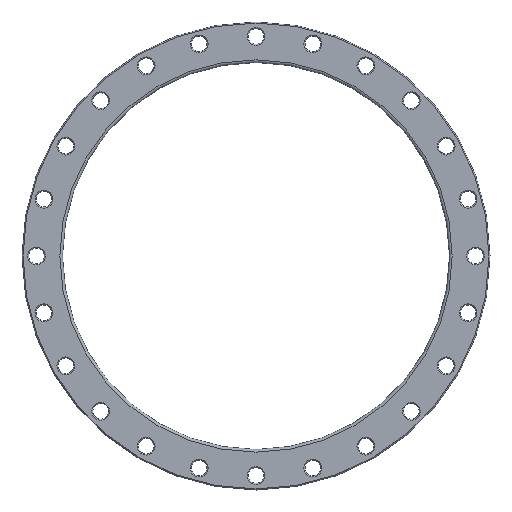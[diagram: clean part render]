
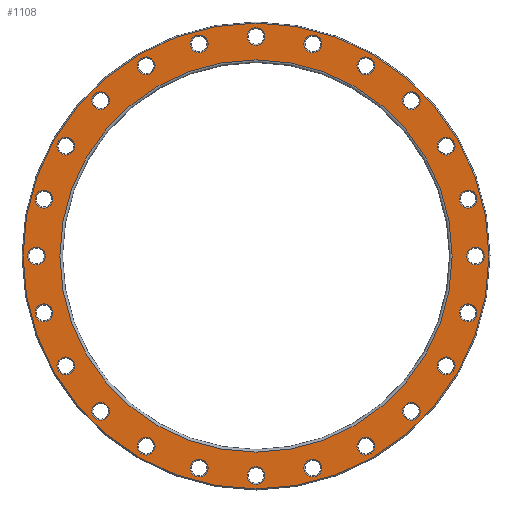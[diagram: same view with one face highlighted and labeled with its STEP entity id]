
A CAD part, front view. The second image highlights one B-rep face of the part: STEP entity #1108.
In plain terms, the highlighted planar face has unit normal (0, -1, 0).
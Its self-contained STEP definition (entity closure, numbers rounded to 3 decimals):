
#23=PLANE('',#1300);
#242=ORIENTED_EDGE('',*,*,#381,.T.);
#243=ORIENTED_EDGE('',*,*,#382,.T.);
#244=ORIENTED_EDGE('',*,*,#284,.T.);
#245=ORIENTED_EDGE('',*,*,#288,.T.);
#246=ORIENTED_EDGE('',*,*,#292,.T.);
#247=ORIENTED_EDGE('',*,*,#296,.T.);
#248=ORIENTED_EDGE('',*,*,#300,.T.);
#249=ORIENTED_EDGE('',*,*,#304,.T.);
#250=ORIENTED_EDGE('',*,*,#308,.T.);
#251=ORIENTED_EDGE('',*,*,#312,.T.);
#252=ORIENTED_EDGE('',*,*,#316,.T.);
#253=ORIENTED_EDGE('',*,*,#320,.T.);
#254=ORIENTED_EDGE('',*,*,#324,.T.);
#255=ORIENTED_EDGE('',*,*,#328,.T.);
#256=ORIENTED_EDGE('',*,*,#332,.T.);
#257=ORIENTED_EDGE('',*,*,#336,.T.);
#258=ORIENTED_EDGE('',*,*,#340,.T.);
#259=ORIENTED_EDGE('',*,*,#344,.T.);
#260=ORIENTED_EDGE('',*,*,#348,.T.);
#261=ORIENTED_EDGE('',*,*,#352,.T.);
#262=ORIENTED_EDGE('',*,*,#356,.T.);
#263=ORIENTED_EDGE('',*,*,#360,.T.);
#264=ORIENTED_EDGE('',*,*,#364,.T.);
#265=ORIENTED_EDGE('',*,*,#368,.T.);
#266=ORIENTED_EDGE('',*,*,#372,.T.);
#267=ORIENTED_EDGE('',*,*,#383,.T.);
#284=EDGE_CURVE('',#388,#388,#492,.T.);
#288=EDGE_CURVE('',#392,#392,#496,.T.);
#292=EDGE_CURVE('',#396,#396,#500,.T.);
#296=EDGE_CURVE('',#400,#400,#504,.T.);
#300=EDGE_CURVE('',#404,#404,#508,.T.);
#304=EDGE_CURVE('',#408,#408,#512,.T.);
#308=EDGE_CURVE('',#412,#412,#516,.T.);
#312=EDGE_CURVE('',#416,#416,#520,.T.);
#316=EDGE_CURVE('',#420,#420,#524,.T.);
#320=EDGE_CURVE('',#424,#424,#528,.T.);
#324=EDGE_CURVE('',#428,#428,#532,.T.);
#328=EDGE_CURVE('',#432,#432,#536,.T.);
#332=EDGE_CURVE('',#436,#436,#540,.T.);
#336=EDGE_CURVE('',#440,#440,#544,.T.);
#340=EDGE_CURVE('',#444,#444,#548,.T.);
#344=EDGE_CURVE('',#448,#448,#552,.T.);
#348=EDGE_CURVE('',#452,#452,#556,.T.);
#352=EDGE_CURVE('',#456,#456,#560,.T.);
#356=EDGE_CURVE('',#460,#460,#564,.T.);
#360=EDGE_CURVE('',#464,#464,#568,.T.);
#364=EDGE_CURVE('',#468,#468,#572,.T.);
#368=EDGE_CURVE('',#472,#472,#576,.T.);
#372=EDGE_CURVE('',#476,#476,#580,.T.);
#381=EDGE_CURVE('',#485,#485,#589,.F.);
#382=EDGE_CURVE('',#486,#486,#590,.T.);
#383=EDGE_CURVE('',#487,#487,#591,.T.);
#388=VERTEX_POINT('',#1691);
#392=VERTEX_POINT('',#1702);
#396=VERTEX_POINT('',#1713);
#400=VERTEX_POINT('',#1724);
#404=VERTEX_POINT('',#1735);
#408=VERTEX_POINT('',#1746);
#412=VERTEX_POINT('',#1757);
#416=VERTEX_POINT('',#1768);
#420=VERTEX_POINT('',#1779);
#424=VERTEX_POINT('',#1790);
#428=VERTEX_POINT('',#1801);
#432=VERTEX_POINT('',#1812);
#436=VERTEX_POINT('',#1823);
#440=VERTEX_POINT('',#1834);
#444=VERTEX_POINT('',#1845);
#448=VERTEX_POINT('',#1856);
#452=VERTEX_POINT('',#1867);
#456=VERTEX_POINT('',#1878);
#460=VERTEX_POINT('',#1889);
#464=VERTEX_POINT('',#1900);
#468=VERTEX_POINT('',#1911);
#472=VERTEX_POINT('',#1922);
#476=VERTEX_POINT('',#1933);
#485=VERTEX_POINT('',#1956);
#486=VERTEX_POINT('',#1958);
#487=VERTEX_POINT('',#1960);
#492=CIRCLE('',#1133,17.);
#496=CIRCLE('',#1140,17.);
#500=CIRCLE('',#1147,17.);
#504=CIRCLE('',#1154,17.);
#508=CIRCLE('',#1161,17.);
#512=CIRCLE('',#1168,17.);
#516=CIRCLE('',#1175,17.);
#520=CIRCLE('',#1182,17.);
#524=CIRCLE('',#1189,17.);
#528=CIRCLE('',#1196,17.);
#532=CIRCLE('',#1203,17.);
#536=CIRCLE('',#1210,17.);
#540=CIRCLE('',#1217,17.);
#544=CIRCLE('',#1224,17.);
#548=CIRCLE('',#1231,17.);
#552=CIRCLE('',#1238,17.);
#556=CIRCLE('',#1245,17.);
#560=CIRCLE('',#1252,17.);
#564=CIRCLE('',#1259,17.);
#568=CIRCLE('',#1266,17.);
#572=CIRCLE('',#1273,17.);
#576=CIRCLE('',#1280,17.);
#580=CIRCLE('',#1287,17.);
#589=CIRCLE('',#1301,445.5);
#590=CIRCLE('',#1302,375.);
#591=CIRCLE('',#1303,17.);
#762=EDGE_LOOP('',(#242));
#763=EDGE_LOOP('',(#243));
#764=EDGE_LOOP('',(#244));
#765=EDGE_LOOP('',(#245));
#766=EDGE_LOOP('',(#246));
#767=EDGE_LOOP('',(#247));
#768=EDGE_LOOP('',(#248));
#769=EDGE_LOOP('',(#249));
#770=EDGE_LOOP('',(#250));
#771=EDGE_LOOP('',(#251));
#772=EDGE_LOOP('',(#252));
#773=EDGE_LOOP('',(#253));
#774=EDGE_LOOP('',(#254));
#775=EDGE_LOOP('',(#255));
#776=EDGE_LOOP('',(#256));
#777=EDGE_LOOP('',(#257));
#778=EDGE_LOOP('',(#258));
#779=EDGE_LOOP('',(#259));
#780=EDGE_LOOP('',(#260));
#781=EDGE_LOOP('',(#261));
#782=EDGE_LOOP('',(#262));
#783=EDGE_LOOP('',(#263));
#784=EDGE_LOOP('',(#264));
#785=EDGE_LOOP('',(#265));
#786=EDGE_LOOP('',(#266));
#787=EDGE_LOOP('',(#267));
#970=FACE_BOUND('',#762,.T.);
#971=FACE_BOUND('',#763,.T.);
#972=FACE_BOUND('',#764,.T.);
#973=FACE_BOUND('',#765,.T.);
#974=FACE_BOUND('',#766,.T.);
#975=FACE_BOUND('',#767,.T.);
#976=FACE_BOUND('',#768,.T.);
#977=FACE_BOUND('',#769,.T.);
#978=FACE_BOUND('',#770,.T.);
#979=FACE_BOUND('',#771,.T.);
#980=FACE_BOUND('',#772,.T.);
#981=FACE_BOUND('',#773,.T.);
#982=FACE_BOUND('',#774,.T.);
#983=FACE_BOUND('',#775,.T.);
#984=FACE_BOUND('',#776,.T.);
#985=FACE_BOUND('',#777,.T.);
#986=FACE_BOUND('',#778,.T.);
#987=FACE_BOUND('',#779,.T.);
#988=FACE_BOUND('',#780,.T.);
#989=FACE_BOUND('',#781,.T.);
#990=FACE_BOUND('',#782,.T.);
#991=FACE_BOUND('',#783,.T.);
#992=FACE_BOUND('',#784,.T.);
#993=FACE_BOUND('',#785,.T.);
#994=FACE_BOUND('',#786,.T.);
#995=FACE_BOUND('',#787,.T.);
#1108=ADVANCED_FACE('',(#970,#971,#972,#973,#974,#975,#976,#977,#978,#979,
#980,#981,#982,#983,#984,#985,#986,#987,#988,#989,#990,#991,#992,#993,#994,
#995),#23,.F.);
#1133=AXIS2_PLACEMENT_3D('',#1690,#1323,#1324);
#1140=AXIS2_PLACEMENT_3D('',#1701,#1337,#1338);
#1147=AXIS2_PLACEMENT_3D('',#1712,#1351,#1352);
#1154=AXIS2_PLACEMENT_3D('',#1723,#1365,#1366);
#1161=AXIS2_PLACEMENT_3D('',#1734,#1379,#1380);
#1168=AXIS2_PLACEMENT_3D('',#1745,#1393,#1394);
#1175=AXIS2_PLACEMENT_3D('',#1756,#1407,#1408);
#1182=AXIS2_PLACEMENT_3D('',#1767,#1421,#1422);
#1189=AXIS2_PLACEMENT_3D('',#1778,#1435,#1436);
#1196=AXIS2_PLACEMENT_3D('',#1789,#1449,#1450);
#1203=AXIS2_PLACEMENT_3D('',#1800,#1463,#1464);
#1210=AXIS2_PLACEMENT_3D('',#1811,#1477,#1478);
#1217=AXIS2_PLACEMENT_3D('',#1822,#1491,#1492);
#1224=AXIS2_PLACEMENT_3D('',#1833,#1505,#1506);
#1231=AXIS2_PLACEMENT_3D('',#1844,#1519,#1520);
#1238=AXIS2_PLACEMENT_3D('',#1855,#1533,#1534);
#1245=AXIS2_PLACEMENT_3D('',#1866,#1547,#1548);
#1252=AXIS2_PLACEMENT_3D('',#1877,#1561,#1562);
#1259=AXIS2_PLACEMENT_3D('',#1888,#1575,#1576);
#1266=AXIS2_PLACEMENT_3D('',#1899,#1589,#1590);
#1273=AXIS2_PLACEMENT_3D('',#1910,#1603,#1604);
#1280=AXIS2_PLACEMENT_3D('',#1921,#1617,#1618);
#1287=AXIS2_PLACEMENT_3D('',#1932,#1631,#1632);
#1300=AXIS2_PLACEMENT_3D('',#1954,#1657,#1658);
#1301=AXIS2_PLACEMENT_3D('',#1955,#1659,#1660);
#1302=AXIS2_PLACEMENT_3D('',#1957,#1661,#1662);
#1303=AXIS2_PLACEMENT_3D('',#1959,#1663,#1664);
#1323=DIRECTION('',(0.,1.,0.));
#1324=DIRECTION('',(0.966,0.,0.259));
#1337=DIRECTION('',(0.,1.,0.));
#1338=DIRECTION('',(0.866,0.,0.5));
#1351=DIRECTION('',(0.,1.,0.));
#1352=DIRECTION('',(0.707,0.,0.707));
#1365=DIRECTION('',(0.,1.,0.));
#1366=DIRECTION('',(0.5,0.,0.866));
#1379=DIRECTION('',(0.,1.,0.));
#1380=DIRECTION('',(0.259,0.,0.966));
#1393=DIRECTION('',(0.,1.,0.));
#1394=DIRECTION('',(0.,0.,1.));
#1407=DIRECTION('',(0.,1.,0.));
#1408=DIRECTION('',(-0.259,0.,0.966));
#1421=DIRECTION('',(0.,1.,0.));
#1422=DIRECTION('',(-0.5,0.,0.866));
#1435=DIRECTION('',(0.,1.,0.));
#1436=DIRECTION('',(-0.707,0.,0.707));
#1449=DIRECTION('',(0.,1.,0.));
#1450=DIRECTION('',(-0.866,0.,0.5));
#1463=DIRECTION('',(0.,1.,0.));
#1464=DIRECTION('',(-0.966,0.,0.259));
#1477=DIRECTION('',(0.,1.,0.));
#1478=DIRECTION('',(-1.,0.,0.));
#1491=DIRECTION('',(0.,1.,0.));
#1492=DIRECTION('',(-0.966,0.,-0.259));
#1505=DIRECTION('',(0.,1.,0.));
#1506=DIRECTION('',(-0.866,0.,-0.5));
#1519=DIRECTION('',(0.,1.,0.));
#1520=DIRECTION('',(-0.707,0.,-0.707));
#1533=DIRECTION('',(0.,1.,0.));
#1534=DIRECTION('',(-0.5,0.,-0.866));
#1547=DIRECTION('',(0.,1.,0.));
#1548=DIRECTION('',(-0.259,0.,-0.966));
#1561=DIRECTION('',(0.,1.,0.));
#1562=DIRECTION('',(0.,0.,-1.));
#1575=DIRECTION('',(0.,1.,0.));
#1576=DIRECTION('',(0.259,0.,-0.966));
#1589=DIRECTION('',(0.,1.,0.));
#1590=DIRECTION('',(0.5,0.,-0.866));
#1603=DIRECTION('',(0.,1.,0.));
#1604=DIRECTION('',(0.707,0.,-0.707));
#1617=DIRECTION('',(0.,1.,0.));
#1618=DIRECTION('',(0.866,0.,-0.5));
#1631=DIRECTION('',(0.,1.,0.));
#1632=DIRECTION('',(0.966,0.,-0.259));
#1657=DIRECTION('',(0.,1.,0.));
#1658=DIRECTION('',(0.,0.,1.));
#1659=DIRECTION('',(0.,1.,0.));
#1660=DIRECTION('',(0.,0.,1.));
#1661=DIRECTION('',(0.,1.,0.));
#1662=DIRECTION('',(0.,0.,1.));
#1663=DIRECTION('',(0.,1.,0.));
#1664=DIRECTION('',(1.,0.,0.));
#1690=CARTESIAN_POINT('',(-108.704,0.,405.689));
#1691=CARTESIAN_POINT('',(-92.283,0.,410.089));
#1701=CARTESIAN_POINT('',(-210.,0.,363.731));
#1702=CARTESIAN_POINT('',(-195.278,0.,372.231));
#1712=CARTESIAN_POINT('',(-296.985,0.,296.985));
#1713=CARTESIAN_POINT('',(-284.964,0.,309.006));
#1723=CARTESIAN_POINT('',(-363.731,0.,210.));
#1724=CARTESIAN_POINT('',(-355.231,0.,224.722));
#1734=CARTESIAN_POINT('',(-405.689,0.,108.704));
#1735=CARTESIAN_POINT('',(-401.289,0.,125.125));
#1745=CARTESIAN_POINT('',(-420.,0.,0.));
#1746=CARTESIAN_POINT('',(-420.,0.,17.));
#1756=CARTESIAN_POINT('',(-405.689,0.,-108.704));
#1757=CARTESIAN_POINT('',(-410.089,0.,-92.283));
#1767=CARTESIAN_POINT('',(-363.731,0.,-210.));
#1768=CARTESIAN_POINT('',(-372.231,0.,-195.278));
#1778=CARTESIAN_POINT('',(-296.985,0.,-296.985));
#1779=CARTESIAN_POINT('',(-309.006,0.,-284.964));
#1789=CARTESIAN_POINT('',(-210.,0.,-363.731));
#1790=CARTESIAN_POINT('',(-224.722,0.,-355.231));
#1800=CARTESIAN_POINT('',(-108.704,0.,-405.689));
#1801=CARTESIAN_POINT('',(-125.125,0.,-401.289));
#1811=CARTESIAN_POINT('',(0.,0.,-420.));
#1812=CARTESIAN_POINT('',(-17.,0.,-420.));
#1822=CARTESIAN_POINT('',(108.704,0.,-405.689));
#1823=CARTESIAN_POINT('',(92.283,0.,-410.089));
#1833=CARTESIAN_POINT('',(210.,0.,-363.731));
#1834=CARTESIAN_POINT('',(195.278,0.,-372.231));
#1844=CARTESIAN_POINT('',(296.985,0.,-296.985));
#1845=CARTESIAN_POINT('',(284.964,0.,-309.006));
#1855=CARTESIAN_POINT('',(363.731,0.,-210.));
#1856=CARTESIAN_POINT('',(355.231,0.,-224.722));
#1866=CARTESIAN_POINT('',(405.689,0.,-108.704));
#1867=CARTESIAN_POINT('',(401.289,0.,-125.125));
#1877=CARTESIAN_POINT('',(420.,0.,0.));
#1878=CARTESIAN_POINT('',(420.,0.,-17.));
#1888=CARTESIAN_POINT('',(405.689,0.,108.704));
#1889=CARTESIAN_POINT('',(410.089,0.,92.283));
#1899=CARTESIAN_POINT('',(363.731,0.,210.));
#1900=CARTESIAN_POINT('',(372.231,0.,195.278));
#1910=CARTESIAN_POINT('',(296.985,0.,296.985));
#1911=CARTESIAN_POINT('',(309.006,0.,284.964));
#1921=CARTESIAN_POINT('',(210.,0.,363.731));
#1922=CARTESIAN_POINT('',(224.722,0.,355.231));
#1932=CARTESIAN_POINT('',(108.704,0.,405.689));
#1933=CARTESIAN_POINT('',(125.125,0.,401.289));
#1954=CARTESIAN_POINT('',(0.,0.,0.));
#1955=CARTESIAN_POINT('',(0.,0.,0.));
#1956=CARTESIAN_POINT('',(0.,0.,445.5));
#1957=CARTESIAN_POINT('',(0.,0.,0.));
#1958=CARTESIAN_POINT('',(0.,0.,375.));
#1959=CARTESIAN_POINT('',(0.,0.,420.));
#1960=CARTESIAN_POINT('',(17.,0.,420.));
